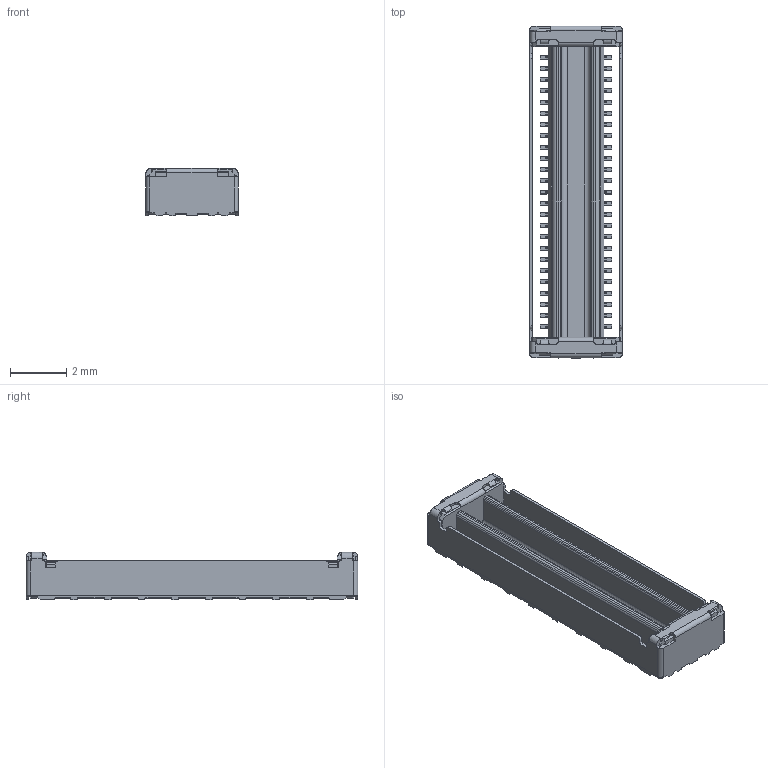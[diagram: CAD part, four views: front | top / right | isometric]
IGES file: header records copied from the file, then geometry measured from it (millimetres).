
Start section: SolidWorks IGES file using analytic representation for surfaces
Bounding box: 3.3 x 11.82 x 1.68 mm (x, y, z)
Surface area: 183.1 mm2 (no closed solid volume)
Topology: 0 solids, 0 shells, 992 faces, 6160 edges, 6160 vertices
Faces by surface type: bspline 654, revolution 338
